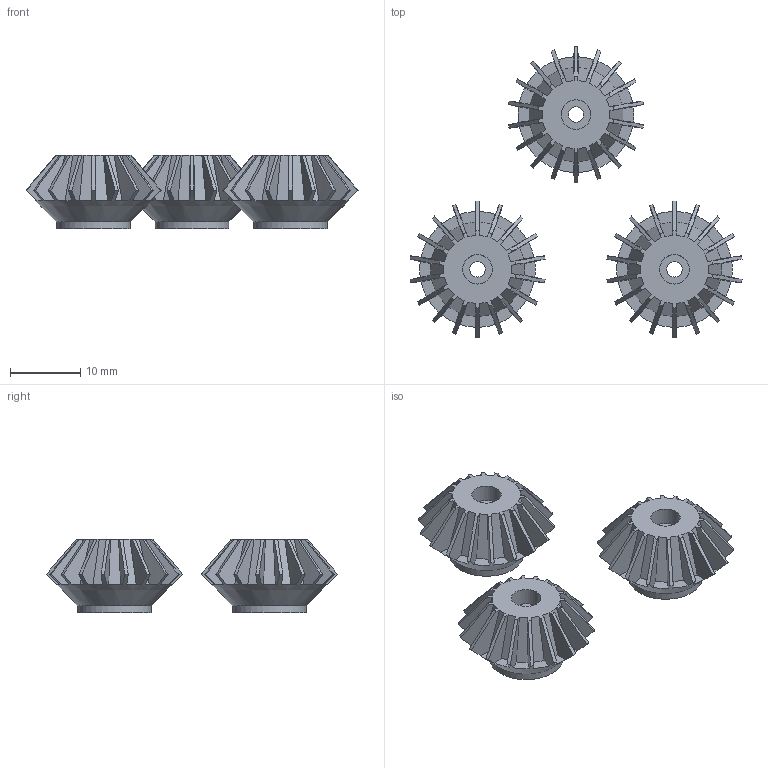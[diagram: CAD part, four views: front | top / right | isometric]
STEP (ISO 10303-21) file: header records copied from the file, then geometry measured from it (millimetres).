
FILE_DESCRIPTION(('Open CASCADE Model'),'2;1');
FILE_NAME('COMPOUND','2026-10-16T15:25:18',('Author'),('Open CASCADE'), 'Open CASCADE STEP processor 7.8','build123d','Unknown');
FILE_SCHEMA(('AUTOMOTIVE_DESIGN { 1 0 10303 214 1 1 1 1 }'));
Length unit declared in the file: millimetre
Products named in the file (2): =>[0:1:1:2]; COMPOUND
Assembly tree (1 placements, depth 2):
  =>[0:1:1:2]
    COMPOUND
Bounding box: 47.2 x 41.41 x 10.5 mm (x, y, z)
Volume: 3515.9 mm3; surface area: 3924.8 mm2
Topology: 3 solids, 3 shells, 327 faces, 930 edges, 612 vertices
Faces by surface type: bspline 180, plane 81, cone 57, cylinder 9
Full cylindrical faces by diameter (mm): 2.2 x3, 4.2 x3, 10.5 x3
Entity records: 38059 total; most frequent: CARTESIAN_POINT 22415, DIRECTION 1927, ORIENTED_EDGE 1860, PCURVE 1860, DEFINITIONAL_REPRESENTATION 1860, B_SPLINE_CURVE_WITH_KNOTS 1296, LINE 1173, VECTOR 1173
